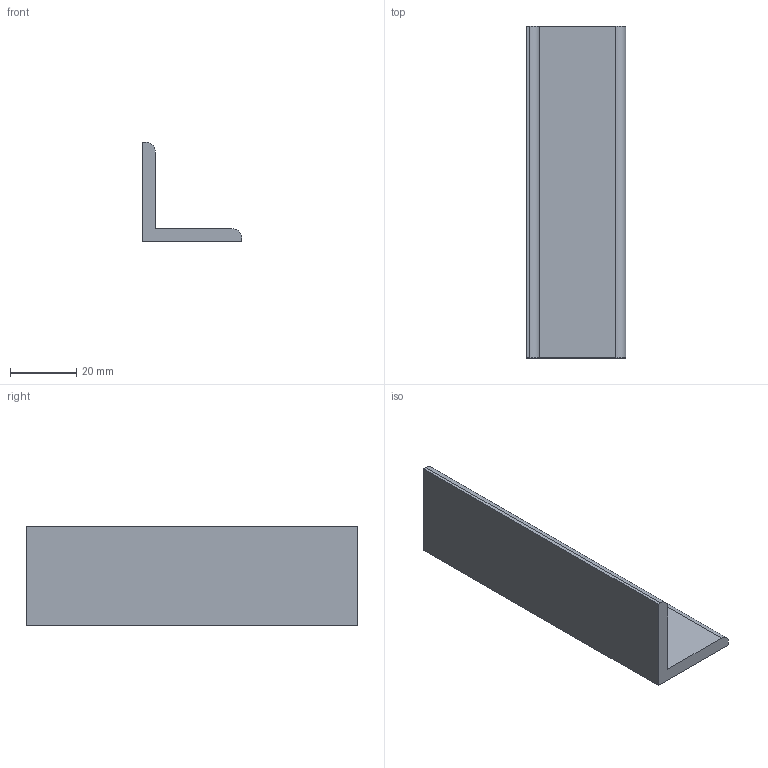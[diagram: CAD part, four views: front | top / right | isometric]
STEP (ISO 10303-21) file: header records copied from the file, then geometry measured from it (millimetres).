
FILE_DESCRIPTION(/* description */ ('Unknown'),/* implementation_level */ '2;1');
FILE_NAME(/* name */ 'AAG03003004',/* time_stamp */ '2018-10-17T09:26:54+01:00',/* author */ ('Unknown'),/* organization */ ('Unknown'),/* preprocessor_version */ 'ST-DEVELOPER v16.7',/* originating_system */ 'DEX',/* authorisation */ $);
FILE_SCHEMA (('AUTOMOTIVE_DESIGN {1 0 10303 214 3 1 1}'));
Length unit declared in the file: millimetre
Products named in the file (1): AAG03003004
Bounding box: 30 x 100 x 30 mm (x, y, z)
Volume: 22013.7 mm3; surface area: 12182.8 mm2
Topology: 1 solids, 1 shells, 10 faces, 24 edges, 16 vertices
Faces by surface type: plane 8, cylinder 2
Entity records: 322 total; most frequent: CARTESIAN_POINT 51, DIRECTION 50, ORIENTED_EDGE 48, EDGE_CURVE 24, LINE 20, VECTOR 20, VERTEX_POINT 16, AXIS2_PLACEMENT_3D 15
